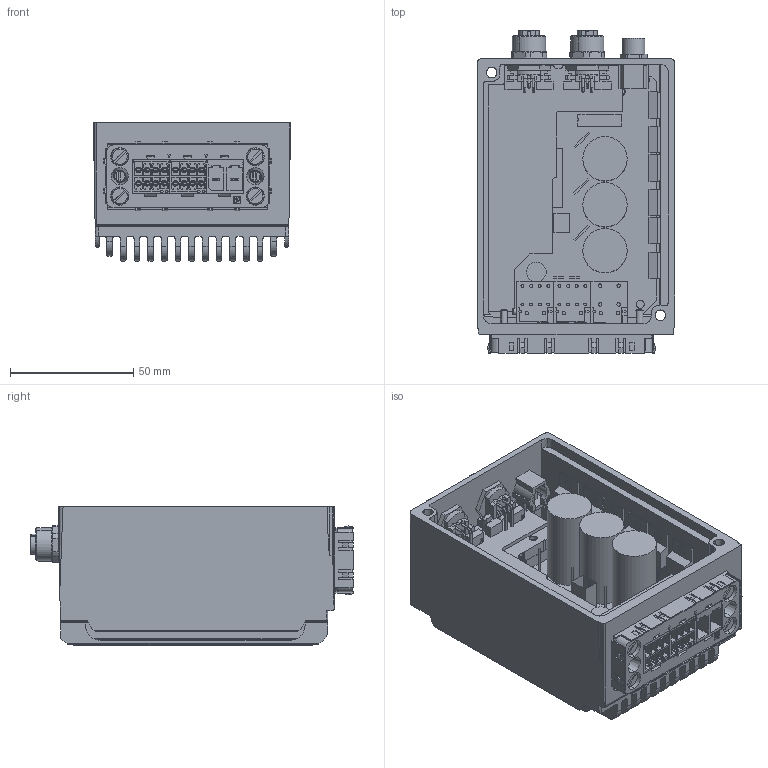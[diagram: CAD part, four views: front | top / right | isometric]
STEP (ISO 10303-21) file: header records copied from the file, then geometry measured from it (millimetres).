
FILE_DESCRIPTION(('STEP AP214'),'1');
FILE_NAME('M:/TSI/DIS-2-Zeichnungen/DIS2_48_10_FB.stp','2014-01-29T15:46:10',(''),(''),'Spatial InterOp 3D',' ',' ');
FILE_SCHEMA(('automotive_design'));
Length unit declared in the file: inch
Products named in the file (168): ACIS-VolumenkÃ¶rper_46; ACIS-VolumenkÃ¶rper_281; ACIS-VolumenkÃ¶rper_357; ACIS-VolumenkÃ¶rper_883; ACIS-VolumenkÃ¶rper_947; ACIS-VolumenkÃ¶rper_1208; ACIS-VolumenkÃ¶rper_1734; ACIS-VolumenkÃ¶rper_1798; ACIS-VolumenkÃ¶rper_2059; ACIS-VolumenkÃ¶rper_2077; ACIS-VolumenkÃ¶rper_2095; ACIS-VolumenkÃ¶rper_2113; ACIS-VolumenkÃ¶rper_2143; 1; 2; FlÃ¤chenseite_2527; FlÃ¤chenseite_2601; FlÃ¤chenseite_2636; FlÃ¤chenseite_2673; FlÃ¤chenseite_2697; FlÃ¤chenseite_2721; FlÃ¤chenseite_2745; FlÃ¤chenseite_2769; ACIS-VolumenkÃ¶rper_2799; ACIS-VolumenkÃ¶rper_2803; ACIS-VolumenkÃ¶rper_2807; ACIS-VolumenkÃ¶rper_2811; FlÃ¤chenseite_2825; ACIS-VolumenkÃ¶rper_2839; ACIS-VolumenkÃ¶rper_2843; 3; FlÃ¤chenseite_2883; FlÃ¤chenseite_2893; FlÃ¤chenseite_2901; FlÃ¤chenseite_2909; FlÃ¤chenseite_2917; FlÃ¤chenseite_2927; FlÃ¤chenseite_2937; FlÃ¤chenseite_2955; FlÃ¤chenseite_2963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
Bounding box: 79.99 x 130.84 x 56 mm (x, y, z)
Volume: 195956.8 mm3; surface area: 140058 mm2
Topology: 26 solids, 203 shells, 3205 faces, 9181 edges, 6766 vertices
Faces by surface type: plane 1990, cylinder 903, cone 212, torus 66, bspline 34
Full cylindrical faces by diameter (mm): 1.1 x6, 8.2 x2, 10 x2
Entity records: 140779 total; most frequent: CARTESIAN_POINT 23044, DIRECTION 17776, ORIENTED_EDGE 16860, EDGE_CURVE 8844, LINE 6434, VECTOR 6434, VERTEX_POINT 6154, AXIS2_PLACEMENT_3D 5671
